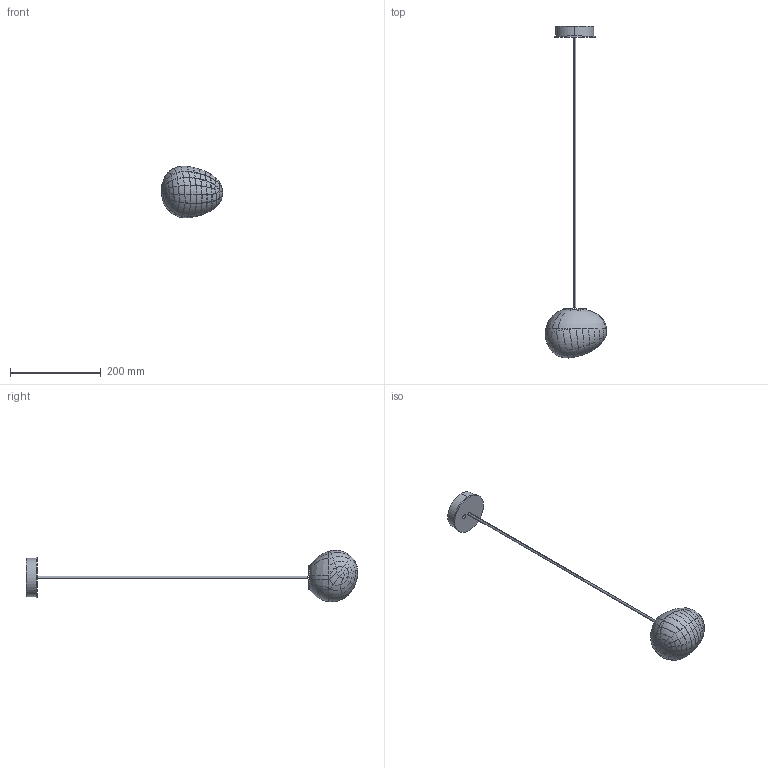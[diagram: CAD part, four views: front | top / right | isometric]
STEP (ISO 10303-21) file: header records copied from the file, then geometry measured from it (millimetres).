
FILE_DESCRIPTION (( 'STEP AP203' ), '1' );
FILE_NAME ('168_PICCOLA_S_PL_3D.STEP', '2021-04-07T13:06:22', ( '' ), ( '' ), 'SwSTEP 2.0', 'SolidWorks 2021', '' );
FILE_SCHEMA (( 'CONFIG_CONTROL_DESIGN' ));
Products named in the file (1): 168_PICCOLA_S_PL_3D
Bounding box: 134.63 x 730.36 x 113.61 mm (x, y, z)
Volume: 209262.4 mm3; surface area: 121912.4 mm2
Topology: 4 solids, 4 shells, 398 faces, 931 edges, 545 vertices
Faces by surface type: bspline 233, torus 75, cylinder 60, plane 15, cone 15
Entity records: 195906 total; most frequent: CARTESIAN_POINT 188411, ORIENTED_EDGE 1852, DIRECTION 986, EDGE_CURVE 926, B_SPLINE_CURVE_WITH_KNOTS 554, VERTEX_POINT 545, AXIS2_PLACEMENT_3D 456, EDGE_LOOP 429
